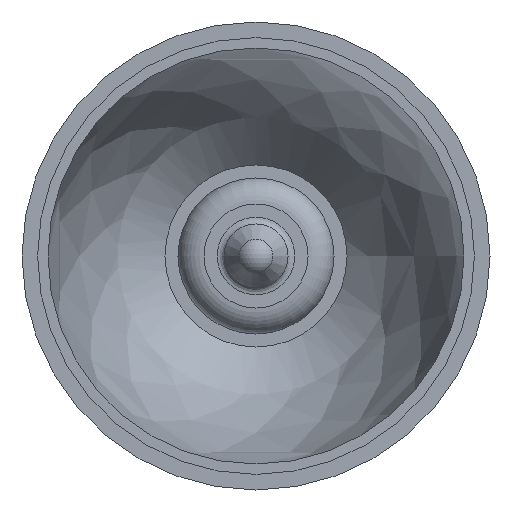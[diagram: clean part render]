
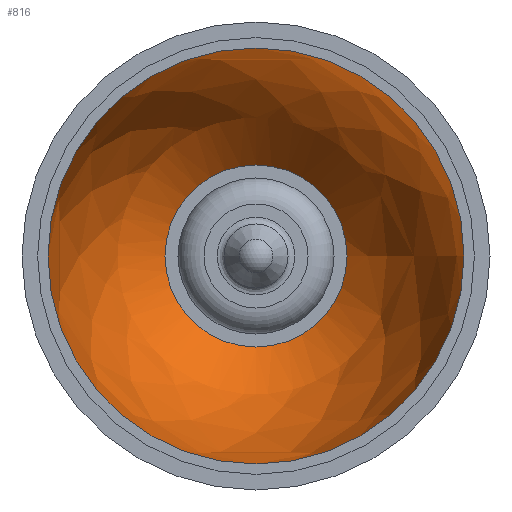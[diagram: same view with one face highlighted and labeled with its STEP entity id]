
A CAD part, front view. The second image highlights one B-rep face of the part: STEP entity #816.
In plain terms, the highlighted free-form (B-spline) face has degree [2, 2] with [3, 9] control points.
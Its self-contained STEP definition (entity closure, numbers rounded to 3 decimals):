
#35=ELLIPSE('',#1026,12.728,8.);
#36=(
BOUNDED_SURFACE()
B_SPLINE_SURFACE(2,2,((#1589,#1590,#1591,#1592,#1593,#1594,#1595,#1596,
#1597),(#1598,#1599,#1600,#1601,#1602,#1603,#1604,#1605,#1606),(#1607,#1608,
#1609,#1610,#1611,#1612,#1613,#1614,#1615)),.UNSPECIFIED.,.F.,.T.,.F.)
B_SPLINE_SURFACE_WITH_KNOTS((3,3),(3,2,2,2,3),(-2.689,-1.563),
(0.,1.571,3.142,4.712,6.283),
 .UNSPECIFIED.)
GEOMETRIC_REPRESENTATION_ITEM()
RATIONAL_B_SPLINE_SURFACE(((1.,0.707,1.,0.707,1.,
0.707,1.,0.707,1.),(0.846,0.598,
0.846,0.598,0.846,0.598,
0.846,0.598,0.846),(1.,0.707,
1.,0.707,1.,0.707,1.,0.707,1.)))
REPRESENTATION_ITEM('')
SURFACE()
);
#198=FACE_OUTER_BOUND('',#256,.T.);
#256=EDGE_LOOP('',(#741,#742,#743,#744,#745));
#345=CIRCLE('',#1025,8.);
#346=CIRCLE('',#1027,3.5);
#347=CIRCLE('',#1028,3.5);
#431=VERTEX_POINT('',#1587);
#432=VERTEX_POINT('',#1616);
#433=VERTEX_POINT('',#1618);
#537=EDGE_CURVE('',#431,#431,#345,.T.);
#538=EDGE_CURVE('',#431,#432,#35,.T.);
#539=EDGE_CURVE('',#433,#432,#346,.T.);
#540=EDGE_CURVE('',#432,#433,#347,.T.);
#741=ORIENTED_EDGE('',*,*,#538,.F.);
#742=ORIENTED_EDGE('',*,*,#537,.T.);
#743=ORIENTED_EDGE('',*,*,#538,.T.);
#744=ORIENTED_EDGE('',*,*,#539,.F.);
#745=ORIENTED_EDGE('',*,*,#540,.F.);
#816=ADVANCED_FACE('',(#198),#36,.T.);
#1025=AXIS2_PLACEMENT_3D('',#1588,#1320,#1321);
#1026=AXIS2_PLACEMENT_3D('',#1617,#1322,#1323);
#1027=AXIS2_PLACEMENT_3D('',#1619,#1324,#1325);
#1028=AXIS2_PLACEMENT_3D('',#1620,#1326,#1327);
#1320=DIRECTION('center_axis',(0.,-1.,0.));
#1321=DIRECTION('ref_axis',(1.,0.,0.));
#1322=DIRECTION('center_axis',(0.,0.,1.));
#1323=DIRECTION('ref_axis',(0.,-1.,0.));
#1324=DIRECTION('center_axis',(0.,-1.,0.));
#1325=DIRECTION('ref_axis',(1.,0.,0.));
#1326=DIRECTION('center_axis',(0.,-1.,0.));
#1327=DIRECTION('ref_axis',(1.,0.,0.));
#1587=CARTESIAN_POINT('',(8.,0.8,0.));
#1588=CARTESIAN_POINT('Origin',(0.,0.8,0.));
#1589=CARTESIAN_POINT('Ctrl Pts',(3.5,12.345,0.));
#1590=CARTESIAN_POINT('Ctrl Pts',(3.5,12.345,3.5));
#1591=CARTESIAN_POINT('Ctrl Pts',(0.,12.345,
3.5));
#1592=CARTESIAN_POINT('Ctrl Pts',(-3.5,12.345,3.5));
#1593=CARTESIAN_POINT('Ctrl Pts',(-3.5,12.345,0.));
#1594=CARTESIAN_POINT('Ctrl Pts',(-3.5,12.345,-3.5));
#1595=CARTESIAN_POINT('Ctrl Pts',(0.,12.345,
-3.5));
#1596=CARTESIAN_POINT('Ctrl Pts',(3.5,12.345,-3.5));
#1597=CARTESIAN_POINT('Ctrl Pts',(3.5,12.345,0.));
#1598=CARTESIAN_POINT('Ctrl Pts',(8.039,8.831,0.));
#1599=CARTESIAN_POINT('Ctrl Pts',(8.039,8.831,8.039));
#1600=CARTESIAN_POINT('Ctrl Pts',(0.,8.831,
8.039));
#1601=CARTESIAN_POINT('Ctrl Pts',(-8.039,8.831,8.039));
#1602=CARTESIAN_POINT('Ctrl Pts',(-8.039,8.831,0.));
#1603=CARTESIAN_POINT('Ctrl Pts',(-8.039,8.831,-8.039));
#1604=CARTESIAN_POINT('Ctrl Pts',(0.,8.831,
-8.039));
#1605=CARTESIAN_POINT('Ctrl Pts',(8.039,8.831,-8.039));
#1606=CARTESIAN_POINT('Ctrl Pts',(8.039,8.831,0.));
#1607=CARTESIAN_POINT('Ctrl Pts',(8.,0.8,0.));
#1608=CARTESIAN_POINT('Ctrl Pts',(8.,0.8,8.));
#1609=CARTESIAN_POINT('Ctrl Pts',(0.,0.8,
8.));
#1610=CARTESIAN_POINT('Ctrl Pts',(-8.,0.8,8.));
#1611=CARTESIAN_POINT('Ctrl Pts',(-8.,0.8,0.));
#1612=CARTESIAN_POINT('Ctrl Pts',(-8.,0.8,-8.));
#1613=CARTESIAN_POINT('Ctrl Pts',(0.,0.8,
-8.));
#1614=CARTESIAN_POINT('Ctrl Pts',(8.,0.8,-8.));
#1615=CARTESIAN_POINT('Ctrl Pts',(8.,0.8,0.));
#1616=CARTESIAN_POINT('',(3.5,12.345,0.));
#1617=CARTESIAN_POINT('Origin',(0.,0.9,0.));
#1618=CARTESIAN_POINT('',(-3.5,12.345,0.));
#1619=CARTESIAN_POINT('Origin',(0.,12.345,
0.));
#1620=CARTESIAN_POINT('Origin',(0.,12.345,
0.));
